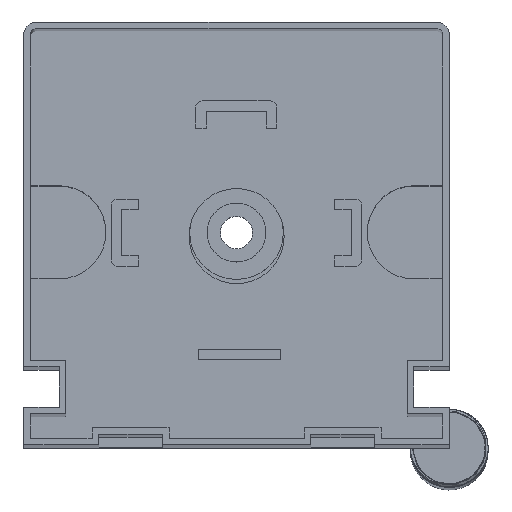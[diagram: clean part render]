
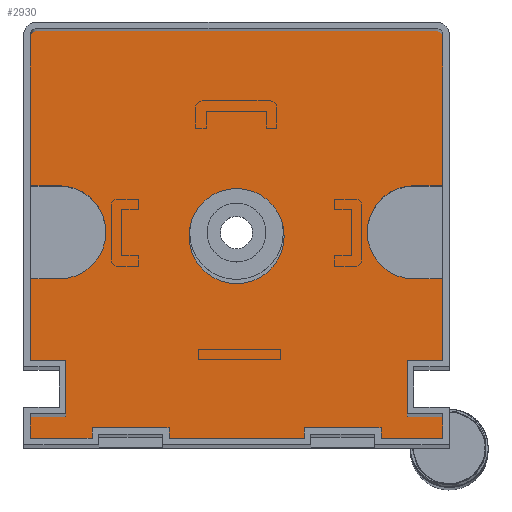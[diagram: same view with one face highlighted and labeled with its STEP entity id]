
A CAD part, top view. The second image highlights one B-rep face of the part: STEP entity #2930.
In plain terms, the highlighted planar face has unit normal (0, 0, 1).
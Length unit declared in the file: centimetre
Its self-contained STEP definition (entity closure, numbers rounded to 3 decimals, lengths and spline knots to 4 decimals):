
#1116=VERTEX_POINT('',#10793);
#1119=VERTEX_POINT('',#10799);
#1120=VERTEX_POINT('',#10801);
#1122=VERTEX_POINT('',#10807);
#1124=VERTEX_POINT('',#10813);
#1127=VERTEX_POINT('',#10820);
#1128=VERTEX_POINT('',#10822);
#1130=VERTEX_POINT('',#10828);
#1132=VERTEX_POINT('',#10834);
#1133=VERTEX_POINT('',#10838);
#1134=VERTEX_POINT('',#10839);
#1135=VERTEX_POINT('',#10841);
#1136=VERTEX_POINT('',#10843);
#1137=VERTEX_POINT('',#10846);
#1138=VERTEX_POINT('',#10848);
#1139=VERTEX_POINT('',#10850);
#1140=VERTEX_POINT('',#10852);
#1141=VERTEX_POINT('',#10854);
#1142=VERTEX_POINT('',#10856);
#1143=VERTEX_POINT('',#10858);
#1144=VERTEX_POINT('',#10860);
#1145=VERTEX_POINT('',#10862);
#1146=VERTEX_POINT('',#10864);
#1147=VERTEX_POINT('',#10866);
#1148=VERTEX_POINT('',#10868);
#1149=VERTEX_POINT('',#10870);
#1150=VERTEX_POINT('',#10872);
#1151=VERTEX_POINT('',#10874);
#1152=VERTEX_POINT('',#10876);
#1153=VERTEX_POINT('',#10878);
#1154=VERTEX_POINT('',#10880);
#1437=EDGE_CURVE('',#1116,#1116,#3288,.T.);
#1440=EDGE_CURVE('',#1119,#1120,#5162,.T.);
#1444=EDGE_CURVE('',#1122,#1119,#3290,.T.);
#1447=EDGE_CURVE('',#1124,#1122,#5167,.T.);
#1450=EDGE_CURVE('',#1127,#1128,#5170,.T.);
#1453=EDGE_CURVE('',#1128,#1130,#3292,.T.);
#1456=EDGE_CURVE('',#1130,#1132,#5174,.T.);
#1458=EDGE_CURVE('',#1133,#1134,#3293,.T.);
#1459=EDGE_CURVE('',#1135,#1133,#5176,.T.);
#1460=EDGE_CURVE('',#1136,#1135,#3294,.T.);
#1461=EDGE_CURVE('',#1132,#1136,#5177,.T.);
#1462=EDGE_CURVE('',#1137,#1127,#5178,.T.);
#1463=EDGE_CURVE('',#1138,#1137,#5179,.T.);
#1464=EDGE_CURVE('',#1139,#1138,#5180,.T.);
#1465=EDGE_CURVE('',#1140,#1139,#5181,.T.);
#1466=EDGE_CURVE('',#1141,#1140,#5182,.T.);
#1467=EDGE_CURVE('',#1142,#1141,#5183,.T.);
#1468=EDGE_CURVE('',#1143,#1142,#5184,.T.);
#1469=EDGE_CURVE('',#1144,#1143,#5185,.T.);
#1470=EDGE_CURVE('',#1145,#1144,#5186,.T.);
#1471=EDGE_CURVE('',#1146,#1145,#5187,.T.);
#1472=EDGE_CURVE('',#1147,#1146,#5188,.T.);
#1473=EDGE_CURVE('',#1148,#1147,#5189,.T.);
#1474=EDGE_CURVE('',#1149,#1148,#5190,.T.);
#1475=EDGE_CURVE('',#1150,#1149,#5191,.T.);
#1476=EDGE_CURVE('',#1151,#1150,#5192,.T.);
#1477=EDGE_CURVE('',#1152,#1151,#5193,.T.);
#1478=EDGE_CURVE('',#1153,#1152,#5194,.T.);
#1479=EDGE_CURVE('',#1154,#1153,#5195,.T.);
#1480=EDGE_CURVE('',#1120,#1154,#5196,.T.);
#1481=EDGE_CURVE('',#1134,#1124,#5197,.T.);
#2005=ORIENTED_EDGE('',*,*,#1437,.T.);
#2006=ORIENTED_EDGE('',*,*,#1458,.F.);
#2007=ORIENTED_EDGE('',*,*,#1459,.F.);
#2008=ORIENTED_EDGE('',*,*,#1460,.F.);
#2009=ORIENTED_EDGE('',*,*,#1461,.F.);
#2010=ORIENTED_EDGE('',*,*,#1456,.F.);
#2011=ORIENTED_EDGE('',*,*,#1453,.F.);
#2012=ORIENTED_EDGE('',*,*,#1450,.F.);
#2013=ORIENTED_EDGE('',*,*,#1462,.F.);
#2014=ORIENTED_EDGE('',*,*,#1463,.F.);
#2015=ORIENTED_EDGE('',*,*,#1464,.F.);
#2016=ORIENTED_EDGE('',*,*,#1465,.F.);
#2017=ORIENTED_EDGE('',*,*,#1466,.F.);
#2018=ORIENTED_EDGE('',*,*,#1467,.F.);
#2019=ORIENTED_EDGE('',*,*,#1468,.F.);
#2020=ORIENTED_EDGE('',*,*,#1469,.F.);
#2021=ORIENTED_EDGE('',*,*,#1470,.F.);
#2022=ORIENTED_EDGE('',*,*,#1471,.F.);
#2023=ORIENTED_EDGE('',*,*,#1472,.F.);
#2024=ORIENTED_EDGE('',*,*,#1473,.F.);
#2025=ORIENTED_EDGE('',*,*,#1474,.F.);
#2026=ORIENTED_EDGE('',*,*,#1475,.F.);
#2027=ORIENTED_EDGE('',*,*,#1476,.F.);
#2028=ORIENTED_EDGE('',*,*,#1477,.F.);
#2029=ORIENTED_EDGE('',*,*,#1478,.F.);
#2030=ORIENTED_EDGE('',*,*,#1479,.F.);
#2031=ORIENTED_EDGE('',*,*,#1480,.F.);
#2032=ORIENTED_EDGE('',*,*,#1440,.F.);
#2033=ORIENTED_EDGE('',*,*,#1444,.F.);
#2034=ORIENTED_EDGE('',*,*,#1447,.F.);
#2035=ORIENTED_EDGE('',*,*,#1481,.F.);
#2593=EDGE_LOOP('',(#2005));
#2594=EDGE_LOOP('',(#2006,#2007,#2008,#2009,#2010,#2011,#2012,#2013,#2014,
#2015,#2016,#2017,#2018,#2019,#2020,#2021,#2022,#2023,#2024,#2025,#2026,
#2027,#2028,#2029,#2030,#2031,#2032,#2033,#2034,#2035));
#2763=FACE_BOUND('',#2593,.T.);
#2764=FACE_BOUND('',#2594,.T.);
#2930=ADVANCED_FACE('',(#2763,#2764),#8729,.T.);
#3288=CIRCLE('',#7808,0.3665);
#3290=CIRCLE('',#7812,0.3585);
#3292=CIRCLE('',#7817,0.3585);
#3293=CIRCLE('',#7820,0.1);
#3294=CIRCLE('',#7821,0.1);
#5162=LINE('',#10800,#8309);
#5167=LINE('',#10814,#8314);
#5170=LINE('',#10821,#8317);
#5174=LINE('',#10833,#8321);
#5176=LINE('',#10840,#8323);
#5177=LINE('',#10844,#8324);
#5178=LINE('',#10845,#8325);
#5179=LINE('',#10847,#8326);
#5180=LINE('',#10849,#8327);
#5181=LINE('',#10851,#8328);
#5182=LINE('',#10853,#8329);
#5183=LINE('',#10855,#8330);
#5184=LINE('',#10857,#8331);
#5185=LINE('',#10859,#8332);
#5186=LINE('',#10861,#8333);
#5187=LINE('',#10863,#8334);
#5188=LINE('',#10865,#8335);
#5189=LINE('',#10867,#8336);
#5190=LINE('',#10869,#8337);
#5191=LINE('',#10871,#8338);
#5192=LINE('',#10873,#8339);
#5193=LINE('',#10875,#8340);
#5194=LINE('',#10877,#8341);
#5195=LINE('',#10879,#8342);
#5196=LINE('',#10881,#8343);
#5197=LINE('',#10882,#8344);
#7808=AXIS2_PLACEMENT_3D('',#10792,#9547,#9548);
#7812=AXIS2_PLACEMENT_3D('',#10808,#9559,#9560);
#7817=AXIS2_PLACEMENT_3D('',#10827,#9574,#9575);
#7819=AXIS2_PLACEMENT_3D('',#10836,#9581,$);
#7820=AXIS2_PLACEMENT_3D('',#10837,#9582,#9583);
#7821=AXIS2_PLACEMENT_3D('',#10842,#9585,#9586);
#8309=VECTOR('',#9552,1.);
#8314=VECTOR('',#9564,1.);
#8317=VECTOR('',#9568,1.);
#8321=VECTOR('',#9579,1.);
#8323=VECTOR('',#9584,1.);
#8324=VECTOR('',#9587,1.);
#8325=VECTOR('',#9588,1.);
#8326=VECTOR('',#9589,1.);
#8327=VECTOR('',#9590,1.);
#8328=VECTOR('',#9591,1.);
#8329=VECTOR('',#9592,1.);
#8330=VECTOR('',#9593,1.);
#8331=VECTOR('',#9594,1.);
#8332=VECTOR('',#9595,1.);
#8333=VECTOR('',#9596,1.);
#8334=VECTOR('',#9597,1.);
#8335=VECTOR('',#9598,1.);
#8336=VECTOR('',#9599,1.);
#8337=VECTOR('',#9600,1.);
#8338=VECTOR('',#9601,1.);
#8339=VECTOR('',#9602,1.);
#8340=VECTOR('',#9603,1.);
#8341=VECTOR('',#9604,1.);
#8342=VECTOR('',#9605,1.);
#8343=VECTOR('',#9606,1.);
#8344=VECTOR('',#9607,1.);
#8729=PLANE('',#7819);
#9547=DIRECTION('',(0.,0.,-1.));
#9548=DIRECTION('',(0.367,0.,0.));
#9552=DIRECTION('',(1.,0.,0.));
#9559=DIRECTION('',(0.,0.,1.));
#9560=DIRECTION('',(0.359,0.,0.));
#9564=DIRECTION('',(-1.,0.,0.));
#9568=DIRECTION('',(1.,0.,0.));
#9574=DIRECTION('',(0.,0.,1.));
#9575=DIRECTION('',(0.359,0.,0.));
#9579=DIRECTION('',(-1.,0.,0.));
#9581=DIRECTION('',(0.,0.,1.));
#9582=DIRECTION('',(0.,0.,-1.));
#9583=DIRECTION('',(0.1,0.,0.));
#9584=DIRECTION('',(1.,0.,0.));
#9585=DIRECTION('',(0.,0.,-1.));
#9586=DIRECTION('',(0.1,0.,0.));
#9587=DIRECTION('',(0.,1.,0.));
#9588=DIRECTION('',(0.,1.,0.));
#9589=DIRECTION('',(-1.,0.,0.));
#9590=DIRECTION('',(0.,1.,0.));
#9591=DIRECTION('',(1.,0.,0.));
#9592=DIRECTION('',(0.,1.,0.));
#9593=DIRECTION('',(-1.,0.,0.));
#9594=DIRECTION('',(0.,-1.,0.));
#9595=DIRECTION('',(-1.,0.,0.));
#9596=DIRECTION('',(0.,1.,0.));
#9597=DIRECTION('',(-1.,0.,0.));
#9598=DIRECTION('',(0.,-1.,0.));
#9599=DIRECTION('',(-1.,0.,0.));
#9600=DIRECTION('',(0.,1.,0.));
#9601=DIRECTION('',(-1.,0.,0.));
#9602=DIRECTION('',(0.,-1.,0.));
#9603=DIRECTION('',(1.,0.,0.));
#9604=DIRECTION('',(0.,-1.,0.));
#9605=DIRECTION('',(-1.,0.,0.));
#9606=DIRECTION('',(0.,-1.,0.));
#9607=DIRECTION('',(0.,-1.,0.));
#10792=CARTESIAN_POINT('',(-1.639,1.6291,2.2));
#10793=CARTESIAN_POINT('',(-1.2725,1.6291,2.2));
#10799=CARTESIAN_POINT('',(-0.2735,1.3,2.2));
#10800=CARTESIAN_POINT('',(0.,1.3,2.2));
#10801=CARTESIAN_POINT('',(0.,1.3,2.2));
#10807=CARTESIAN_POINT('',(-0.2735,2.017,2.2));
#10808=CARTESIAN_POINT('',(-0.2735,1.6585,2.2));
#10813=CARTESIAN_POINT('',(0.,2.017,2.2));
#10814=CARTESIAN_POINT('',(-0.2735,2.017,2.2));
#10820=CARTESIAN_POINT('',(-3.2785,1.3,2.2));
#10821=CARTESIAN_POINT('',(-3.005,1.3,2.2));
#10822=CARTESIAN_POINT('',(-3.005,1.3,2.2));
#10827=CARTESIAN_POINT('',(-3.005,1.6585,2.2));
#10828=CARTESIAN_POINT('',(-3.005,2.017,2.2));
#10833=CARTESIAN_POINT('',(-3.2785,2.017,2.2));
#10834=CARTESIAN_POINT('',(-3.2785,2.017,2.2));
#10836=CARTESIAN_POINT('',(-1.6393,1.5176,2.2));
#10837=CARTESIAN_POINT('',(-0.1,3.157,2.2));
#10838=CARTESIAN_POINT('',(-0.1,3.257,2.2));
#10839=CARTESIAN_POINT('',(0.,3.157,2.2));
#10840=CARTESIAN_POINT('',(-0.1,3.257,2.2));
#10841=CARTESIAN_POINT('',(-3.1785,3.257,2.2));
#10842=CARTESIAN_POINT('',(-3.1785,3.157,2.2));
#10843=CARTESIAN_POINT('',(-3.2785,3.157,2.2));
#10844=CARTESIAN_POINT('',(-3.2785,3.157,2.2));
#10845=CARTESIAN_POINT('',(-3.2785,1.3,2.2));
#10846=CARTESIAN_POINT('',(-3.2785,0.601,2.2));
#10847=CARTESIAN_POINT('',(-3.2785,0.601,2.2));
#10848=CARTESIAN_POINT('',(-3.005,0.601,2.2));
#10849=CARTESIAN_POINT('',(-3.005,0.601,2.2));
#10850=CARTESIAN_POINT('',(-3.005,0.288,2.2));
#10851=CARTESIAN_POINT('',(-3.005,0.288,2.2));
#10852=CARTESIAN_POINT('',(-3.2785,0.288,2.2));
#10853=CARTESIAN_POINT('',(-3.2785,0.288,2.2));
#10854=CARTESIAN_POINT('',(-3.2785,0.,2.2));
#10855=CARTESIAN_POINT('',(-3.2785,0.,2.2));
#10856=CARTESIAN_POINT('',(-2.7025,0.,2.2));
#10857=CARTESIAN_POINT('',(-2.7025,0.,2.2));
#10858=CARTESIAN_POINT('',(-2.7025,0.08,2.2));
#10859=CARTESIAN_POINT('',(-2.7025,0.08,2.2));
#10860=CARTESIAN_POINT('',(-2.2095,0.08,2.2));
#10861=CARTESIAN_POINT('',(-2.2095,0.08,2.2));
#10862=CARTESIAN_POINT('',(-2.2095,0.,2.2));
#10863=CARTESIAN_POINT('',(-2.2095,0.,2.2));
#10864=CARTESIAN_POINT('',(-1.069,0.,2.2));
#10865=CARTESIAN_POINT('',(-1.069,0.,2.2));
#10866=CARTESIAN_POINT('',(-1.069,0.08,2.2));
#10867=CARTESIAN_POINT('',(-1.069,0.08,2.2));
#10868=CARTESIAN_POINT('',(-0.576,0.08,2.2));
#10869=CARTESIAN_POINT('',(-0.576,0.08,2.2));
#10870=CARTESIAN_POINT('',(-0.576,0.,2.2));
#10871=CARTESIAN_POINT('',(-0.576,0.,2.2));
#10872=CARTESIAN_POINT('',(0.,0.,2.2));
#10873=CARTESIAN_POINT('',(0.,0.,2.2));
#10874=CARTESIAN_POINT('',(0.,0.288,2.2));
#10875=CARTESIAN_POINT('',(0.,0.288,2.2));
#10876=CARTESIAN_POINT('',(-0.2735,0.288,2.2));
#10877=CARTESIAN_POINT('',(-0.2735,0.288,2.2));
#10878=CARTESIAN_POINT('',(-0.2735,0.601,2.2));
#10879=CARTESIAN_POINT('',(-0.2735,0.601,2.2));
#10880=CARTESIAN_POINT('',(0.,0.601,2.2));
#10881=CARTESIAN_POINT('',(0.,0.601,2.2));
#10882=CARTESIAN_POINT('',(0.,2.017,2.2));
